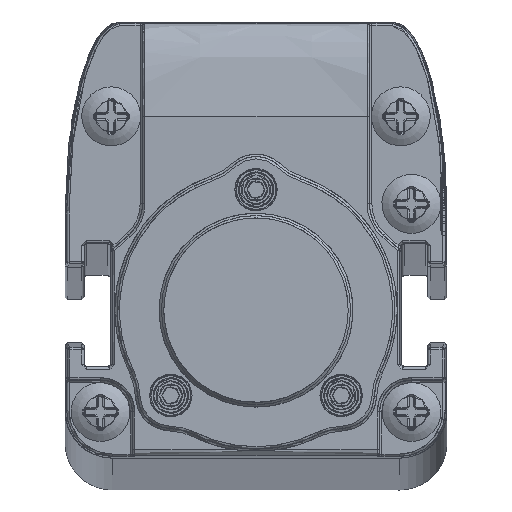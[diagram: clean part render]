
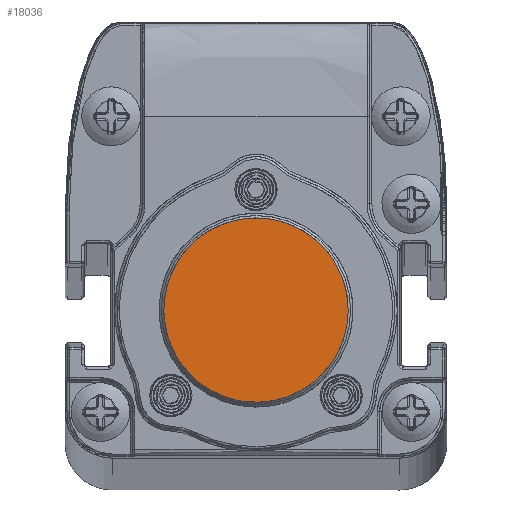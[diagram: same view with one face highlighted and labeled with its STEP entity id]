
A CAD part, top view. The second image highlights one B-rep face of the part: STEP entity #18036.
In plain terms, the highlighted planar face has unit normal (0, 0, 1).
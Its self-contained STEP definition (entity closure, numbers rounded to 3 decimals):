
#15268=B_SPLINE_CURVE_WITH_KNOTS('',3,(#63387,#63388,#63389,#63390,#63391,
#63392,#63393,#63394,#63395,#63396,#63397,#63398,#63399,#63400,#63401,#63402,
#63403,#63404,#63405,#63406,#63407,#63408,#63409,#63410,#63411,#63412,#63413,
#63414,#63415,#63416,#63417,#63418,#63419,#63420,#63421,#63422,#63423,#63424,
#63425,#63426,#63427,#63428,#63429,#63430,#63431,#63432,#63433,#63434,#63435,
#63436,#63437,#63438,#63439,#63440,#63441,#63442,#63443,#63444,#63445,#63446,
#63447,#63448,#63449,#63450,#63451,#63452,#63453,#63454,#63455,#63456,#63457,
#63458,#63459,#63460,#63461,#63462,#63463,#63464,#63465,#63466,#63467,#63468,
#63469,#63470,#63471,#63472,#63473,#63474,#63475,#63476,#63477,#63478,#63479,
#63480,#63481,#63482,#63483,#63484,#63485,#63486,#63487,#63488,#63489),
 .UNSPECIFIED.,.T.,.F.,(1,3,3,3,3,3,3,3,3,3,3,3,3,3,3,3,3,3,3,3,3,3,3,3,
3,3,3,3,3,3,3,3,3,3,3,3,1),(-0.029,0.,0.029,0.059,
0.088,0.118,0.147,0.176,
0.206,0.235,0.265,0.294,
0.324,0.353,0.382,0.412,
0.441,0.471,0.5,0.529,0.559,
0.588,0.618,0.647,0.676,
0.706,0.735,0.765,0.794,
0.824,0.853,0.882,0.912,
0.941,0.971,1.,1.029),.UNSPECIFIED.);
#18036=ADVANCED_FACE('',(#20035),#18934,.T.);
#18934=PLANE('',#43419);
#20035=FACE_OUTER_BOUND('',#21515,.T.);
#21515=EDGE_LOOP('',(#27838));
#27838=ORIENTED_EDGE('',*,*,#36797,.T.);
#31870=VERTEX_POINT('',#63490);
#36797=EDGE_CURVE('',#31870,#31870,#15268,.T.);
#43419=AXIS2_PLACEMENT_3D('',#63491,#47356,#47357);
#47356=DIRECTION('',(0.,0.,1.));
#47357=DIRECTION('',(1.,0.,0.));
#63387=CARTESIAN_POINT('',(7.8,0.,1583.34));
#63388=CARTESIAN_POINT('',(7.8,0.465,1583.34));
#63389=CARTESIAN_POINT('',(7.759,0.925,1583.34));
#63390=CARTESIAN_POINT('',(7.679,1.376,1583.34));
#63391=CARTESIAN_POINT('',(7.638,1.601,1583.34));
#63392=CARTESIAN_POINT('',(7.588,1.825,1583.34));
#63393=CARTESIAN_POINT('',(7.527,2.047,1583.34));
#63394=CARTESIAN_POINT('',(7.466,2.269,1583.34));
#63395=CARTESIAN_POINT('',(7.407,2.458,1583.34));
#63396=CARTESIAN_POINT('',(7.315,2.708,1583.34));
#63397=CARTESIAN_POINT('',(7.129,3.209,1583.34));
#63398=CARTESIAN_POINT('',(6.898,3.683,1583.34));
#63399=CARTESIAN_POINT('',(6.62,4.128,1583.34));
#63400=CARTESIAN_POINT('',(6.343,4.573,1583.34));
#63401=CARTESIAN_POINT('',(6.043,4.965,1583.34));
#63402=CARTESIAN_POINT('',(5.651,5.376,1583.34));
#63403=CARTESIAN_POINT('',(4.868,6.2,1583.34));
#63404=CARTESIAN_POINT('',(3.912,6.837,1583.34));
#63405=CARTESIAN_POINT('',(2.89,7.245,1583.34));
#63406=CARTESIAN_POINT('',(2.378,7.449,1583.34));
#63407=CARTESIAN_POINT('',(1.856,7.597,1583.34));
#63408=CARTESIAN_POINT('',(1.324,7.689,1583.34));
#63409=CARTESIAN_POINT('',(1.058,7.734,1583.34));
#63410=CARTESIAN_POINT('',(0.79,7.766,1583.34));
#63411=CARTESIAN_POINT('',(0.52,7.784,1583.34));
#63412=CARTESIAN_POINT('',(0.249,7.801,1583.34));
#63413=CARTESIAN_POINT('',(-0.055,7.804,1583.34));
#63414=CARTESIAN_POINT('',(-0.3,7.794,1583.34));
#63415=CARTESIAN_POINT('',(-0.79,7.775,1583.34));
#63416=CARTESIAN_POINT('',(-1.271,7.712,1583.34));
#63417=CARTESIAN_POINT('',(-1.742,7.604,1583.34));
#63418=CARTESIAN_POINT('',(-2.213,7.496,1583.34));
#63419=CARTESIAN_POINT('',(-2.713,7.327,1583.34));
#63420=CARTESIAN_POINT('',(-3.123,7.147,1583.34));
#63421=CARTESIAN_POINT('',(-3.534,6.968,1583.34));
#63422=CARTESIAN_POINT('',(-3.924,6.757,1583.34));
#63423=CARTESIAN_POINT('',(-4.293,6.513,1583.34));
#63424=CARTESIAN_POINT('',(-4.477,6.392,1583.34));
#63425=CARTESIAN_POINT('',(-4.656,6.262,1583.34));
#63426=CARTESIAN_POINT('',(-4.83,6.125,1583.34));
#63427=CARTESIAN_POINT('',(-5.004,5.987,1583.34));
#63428=CARTESIAN_POINT('',(-5.15,5.864,1583.34));
#63429=CARTESIAN_POINT('',(-5.337,5.688,1583.34));
#63430=CARTESIAN_POINT('',(-5.712,5.337,1583.34));
#63431=CARTESIAN_POINT('',(-6.047,4.956,1583.34));
#63432=CARTESIAN_POINT('',(-6.341,4.545,1583.34));
#63433=CARTESIAN_POINT('',(-6.635,4.134,1583.34));
#63434=CARTESIAN_POINT('',(-6.869,3.738,1583.34));
#63435=CARTESIAN_POINT('',(-7.102,3.226,1583.34));
#63436=CARTESIAN_POINT('',(-7.567,2.203,1583.34));
#63437=CARTESIAN_POINT('',(-7.8,1.124,1583.34));
#63438=CARTESIAN_POINT('',(-7.8,0.,1583.34));
#63439=CARTESIAN_POINT('',(-7.8,-0.562,1583.34));
#63440=CARTESIAN_POINT('',(-7.742,-1.113,1583.34));
#63441=CARTESIAN_POINT('',(-7.626,-1.651,1583.34));
#63442=CARTESIAN_POINT('',(-7.509,-2.189,1583.34));
#63443=CARTESIAN_POINT('',(-7.314,-2.758,1583.34));
#63444=CARTESIAN_POINT('',(-7.102,-3.226,1583.34));
#63445=CARTESIAN_POINT('',(-6.889,-3.694,1583.34));
#63446=CARTESIAN_POINT('',(-6.636,-4.134,1583.34));
#63447=CARTESIAN_POINT('',(-6.341,-4.544,1583.34));
#63448=CARTESIAN_POINT('',(-6.194,-4.75,1583.34));
#63449=CARTESIAN_POINT('',(-6.037,-4.947,1583.34));
#63450=CARTESIAN_POINT('',(-5.87,-5.138,1583.34));
#63451=CARTESIAN_POINT('',(-5.702,-5.329,1583.34));
#63452=CARTESIAN_POINT('',(-5.5,-5.535,1583.34));
#63453=CARTESIAN_POINT('',(-5.337,-5.688,1583.34));
#63454=CARTESIAN_POINT('',(-5.01,-5.995,1583.34));
#63455=CARTESIAN_POINT('',(-4.662,-6.27,1583.34));
#63456=CARTESIAN_POINT('',(-4.293,-6.513,1583.34));
#63457=CARTESIAN_POINT('',(-3.924,-6.756,1583.34));
#63458=CARTESIAN_POINT('',(-3.573,-6.951,1583.34));
#63459=CARTESIAN_POINT('',(-3.123,-7.147,1583.34));
#63460=CARTESIAN_POINT('',(-2.674,-7.344,1583.34));
#63461=CARTESIAN_POINT('',(-2.213,-7.496,1583.34));
#63462=CARTESIAN_POINT('',(-1.743,-7.604,1583.34));
#63463=CARTESIAN_POINT('',(-1.507,-7.658,1583.34));
#63464=CARTESIAN_POINT('',(-1.27,-7.701,1583.34));
#63465=CARTESIAN_POINT('',(-1.029,-7.732,1583.34));
#63466=CARTESIAN_POINT('',(-0.789,-7.764,1583.34));
#63467=CARTESIAN_POINT('',(-0.575,-7.784,1583.34));
#63468=CARTESIAN_POINT('',(-0.3,-7.794,1583.34));
#63469=CARTESIAN_POINT('',(0.801,-7.837,1583.34));
#63470=CARTESIAN_POINT('',(1.834,-7.666,1583.34));
#63471=CARTESIAN_POINT('',(2.89,-7.245,1583.34));
#63472=CARTESIAN_POINT('',(3.417,-7.035,1583.34));
#63473=CARTESIAN_POINT('',(3.912,-6.774,1583.34));
#63474=CARTESIAN_POINT('',(4.372,-6.462,1583.34));
#63475=CARTESIAN_POINT('',(4.833,-6.15,1583.34));
#63476=CARTESIAN_POINT('',(5.283,-5.763,1583.34));
#63477=CARTESIAN_POINT('',(5.651,-5.376,1583.34));
#63478=CARTESIAN_POINT('',(6.019,-4.989,1583.34));
#63479=CARTESIAN_POINT('',(6.342,-4.573,1583.34));
#63480=CARTESIAN_POINT('',(6.62,-4.128,1583.34));
#63481=CARTESIAN_POINT('',(6.759,-3.906,1583.34));
#63482=CARTESIAN_POINT('',(6.886,-3.676,1583.34));
#63483=CARTESIAN_POINT('',(7.002,-3.44,1583.34));
#63484=CARTESIAN_POINT('',(7.117,-3.203,1583.34));
#63485=CARTESIAN_POINT('',(7.234,-2.926,1583.34));
#63486=CARTESIAN_POINT('',(7.315,-2.708,1583.34));
#63487=CARTESIAN_POINT('',(7.638,-1.835,1583.34));
#63488=CARTESIAN_POINT('',(7.8,-0.933,1583.34));
#63489=CARTESIAN_POINT('',(7.8,0.,1583.34));
#63490=CARTESIAN_POINT('',(7.8,0.,1583.34));
#63491=CARTESIAN_POINT('',(-8.9,-8.81,1583.34));
